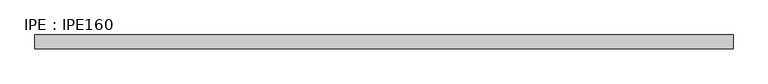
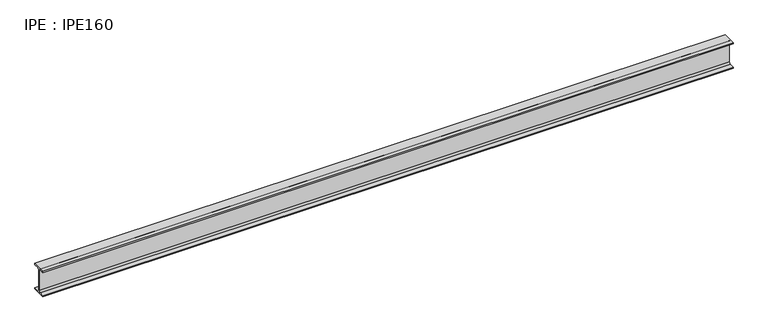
"""IFC4 building model written with IfcOpenShell, lengths in millimetres: beam geometry, IPE : IPE160."""

from ifc_helpers import new_model, si_unit, point, frame, frame_2d, origin, place, context, project, spatial, polyline, circle_curve, trimmed, segment, composite_curve, outline, extrude, source, transform, mapped, element, save


def ipe_ipe160_ba05c706(model_context):
    return source(origin(), model_context, "Body", "SweptSolid", [
        extrude(outline(composite_curve([segment(polyline([(41.0, -72.6), (41.0, -80.0), (-41.0, -80.0), (-41.0, -72.6), (-11.5, -72.6)]), True, "CONTINUOUS"), segment(trimmed(circle_curve(frame_2d((-11.5, -63.6)), 9.0), [point((-11.5, -72.6))], [point((-2.5, -63.6))], True, "CARTESIAN"), True, "CONTINUOUS"), segment(polyline([(-2.5, -63.6), (-2.5, 63.6)]), True, "CONTINUOUS"), segment(trimmed(circle_curve(frame_2d((-11.5, 63.6)), 9.0), [point((-2.5, 63.6))], [point((-11.5, 72.6))], True, "CARTESIAN"), True, "CONTINUOUS"), segment(polyline([(-11.5, 72.6), (-41.0, 72.6), (-41.0, 80.0), (41.0, 80.0), (41.0, 72.6), (11.5, 72.6)]), True, "CONTINUOUS"), segment(trimmed(circle_curve(frame_2d((11.5, 63.6)), 9.0), [point((11.5, 72.6))], [point((2.5, 63.6))], True, "CARTESIAN"), True, "CONTINUOUS"), segment(polyline([(2.5, 63.6), (2.5, -63.6)]), True, "CONTINUOUS"), segment(trimmed(circle_curve(frame_2d((11.5, -63.6)), 9.0), [point((2.5, -63.6))], [point((11.5, -72.6))], True, "CARTESIAN"), True, "CONTINUOUS"), segment(polyline([(11.5, -72.6), (41.0, -72.6)]), True, "CONTINUOUS")], self_intersect=False)), frame((-2016.3, 0.0, 0.0), z_axis=(1.0, 0.0, 0.0), x_axis=(0.0, 1.0, 0.0)), (0.0, 0.0, 1.0), 4109.1),
    ])


if __name__ == "__main__":
    model = new_model("IFC4")
    model_context = context("Model", 3, world=origin())
    ifc_project = project(units=[si_unit("LENGTHUNIT", "METRE", prefix="MILLI")], contexts=[model_context])
    site = spatial("IfcSite", under=ifc_project)
    building = spatial("IfcBuilding", under=site)
    placement = place(None, origin())
    ipe_ipe160_shape = ipe_ipe160_ba05c706(model_context)
    element("IfcBeam", 1, ObjectType="IPE : IPE160", at=placement, inside=building, context=model_context, shape_type="MappedRepresentation", body=[
        mapped(ipe_ipe160_shape, transform((0.0, 0.0, 0.0), x_axis=(1.0, 0.0, 0.0), y_axis=(0.0, 1.0, 0.0), z_axis=(0.0, 0.0, 1.0))),
    ])
    save(model, "model.ifc")
